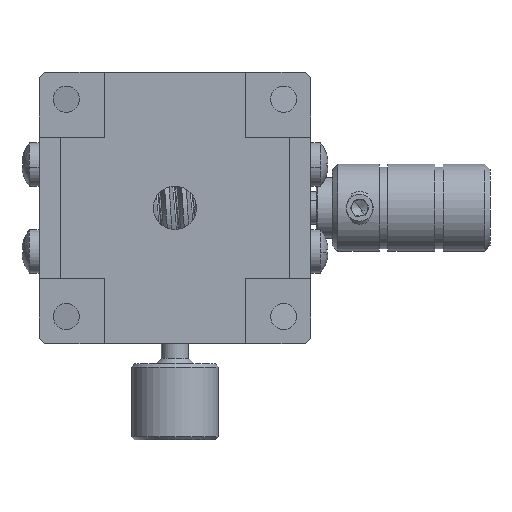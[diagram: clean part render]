
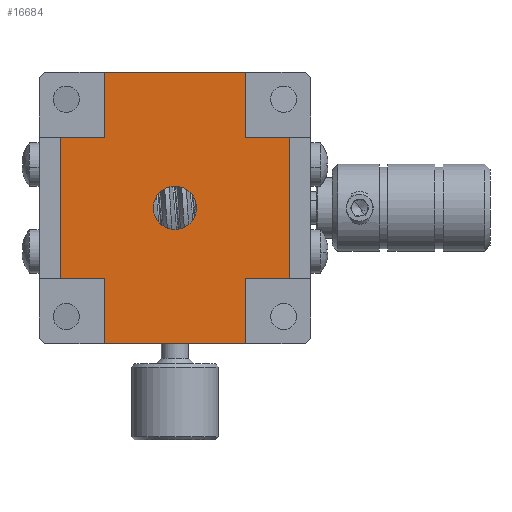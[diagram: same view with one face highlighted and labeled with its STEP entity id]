
A CAD part, front view. The second image highlights one B-rep face of the part: STEP entity #16684.
In plain terms, the highlighted planar face has unit normal (0, -1, 0).
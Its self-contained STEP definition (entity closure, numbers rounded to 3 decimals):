
#237 = CARTESIAN_POINT ( 'NONE',  ( 23.022, 45.174, 27.597 ) ) ;
#269 = DIRECTION ( 'NONE',  ( -1., 0., 0. ) ) ;
#465 = CARTESIAN_POINT ( 'NONE',  ( 16.522, 45.174, 46.597 ) ) ;
#1200 = DIRECTION ( 'NONE',  ( -1., 0., 0. ) ) ;
#1595 = ORIENTED_EDGE ( 'NONE', *, *, #8863, .F. ) ;
#1677 = EDGE_CURVE ( 'NONE', #16149, #6084, #13375, .T. ) ;
#1729 = DIRECTION ( 'NONE',  ( 0., -1., 0. ) ) ;
#1913 = VECTOR ( 'NONE', #15899, 1000. ) ;
#2025 = EDGE_CURVE ( 'NONE', #9055, #19318, #6569, .T. ) ;
#2146 = CARTESIAN_POINT ( 'NONE',  ( 23.022, 45.174, 34.097 ) ) ;
#2228 = LINE ( 'NONE', #4345, #11588 ) ;
#2606 = CARTESIAN_POINT ( 'NONE',  ( 12.522, 45.174, 40.597 ) ) ;
#2675 = PLANE ( 'NONE',  #17856 ) ;
#2685 = ORIENTED_EDGE ( 'NONE', *, *, #1677, .F. ) ;
#3487 = VERTEX_POINT ( 'NONE', #10340 ) ;
#4062 = ORIENTED_EDGE ( 'NONE', *, *, #10041, .F. ) ;
#4345 = CARTESIAN_POINT ( 'NONE',  ( 23.022, 45.174, 27.597 ) ) ;
#4483 = VERTEX_POINT ( 'NONE', #13204 ) ;
#4880 = ORIENTED_EDGE ( 'NONE', *, *, #22751, .T. ) ;
#5071 = VECTOR ( 'NONE', #9909, 1000. ) ;
#5421 = LINE ( 'NONE', #13994, #13305 ) ;
#5932 = CARTESIAN_POINT ( 'NONE',  ( 33.522, 45.174, 27.597 ) ) ;
#5976 = ORIENTED_EDGE ( 'NONE', *, *, #15414, .T. ) ;
#6084 = VERTEX_POINT ( 'NONE', #465 ) ;
#6121 = DIRECTION ( 'NONE',  ( 1., 0., 0. ) ) ;
#6447 = CARTESIAN_POINT ( 'NONE',  ( 29.522, 45.174, 46.597 ) ) ;
#6569 = LINE ( 'NONE', #17390, #23070 ) ;
#6775 = FACE_OUTER_BOUND ( 'NONE', #19287, .T. ) ;
#7318 = CARTESIAN_POINT ( 'NONE',  ( 29.522, 45.174, 34.097 ) ) ;
#7755 = VECTOR ( 'NONE', #20518, 1000. ) ;
#7941 = EDGE_LOOP ( 'NONE', ( #16915, #1595 ) ) ;
#8097 = VERTEX_POINT ( 'NONE', #5932 ) ;
#8194 = AXIS2_PLACEMENT_3D ( 'NONE', #24951, #1729, #10324 ) ;
#8302 = DIRECTION ( 'NONE',  ( -1., 0., 0. ) ) ;
#8561 = ORIENTED_EDGE ( 'NONE', *, *, #19459, .T. ) ;
#8709 = ORIENTED_EDGE ( 'NONE', *, *, #22474, .F. ) ;
#8863 = EDGE_CURVE ( 'NONE', #18919, #4483, #26587, .T. ) ;
#9055 = VERTEX_POINT ( 'NONE', #25650 ) ;
#9118 = CARTESIAN_POINT ( 'NONE',  ( 12.522, 45.174, 27.597 ) ) ;
#9170 = DIRECTION ( 'NONE',  ( 0., 0., 1. ) ) ;
#9888 = ORIENTED_EDGE ( 'NONE', *, *, #20279, .F. ) ;
#9909 = DIRECTION ( 'NONE',  ( 0., 0., 1. ) ) ;
#10039 = AXIS2_PLACEMENT_3D ( 'NONE', #2146, #12844, #6121 ) ;
#10041 = EDGE_CURVE ( 'NONE', #8097, #25836, #13028, .T. ) ;
#10324 = DIRECTION ( 'NONE',  ( 1., 0., 0. ) ) ;
#10340 = CARTESIAN_POINT ( 'NONE',  ( 16.522, 45.174, 21.597 ) ) ;
#10588 = DIRECTION ( 'NONE',  ( 0., 0., 1. ) ) ;
#11263 = CARTESIAN_POINT ( 'NONE',  ( 16.522, 45.174, 34.097 ) ) ;
#11588 = VECTOR ( 'NONE', #269, 1000. ) ;
#11668 = LINE ( 'NONE', #7318, #1913 ) ;
#11845 = VECTOR ( 'NONE', #18245, 1000. ) ;
#12305 = VECTOR ( 'NONE', #22514, 1000. ) ;
#12844 = DIRECTION ( 'NONE',  ( 0., -1., 0. ) ) ;
#13028 = LINE ( 'NONE', #237, #16160 ) ;
#13204 = CARTESIAN_POINT ( 'NONE',  ( 25.022, 45.174, 34.097 ) ) ;
#13305 = VECTOR ( 'NONE', #1200, 1000. ) ;
#13372 = CARTESIAN_POINT ( 'NONE',  ( 16.522, 45.174, 40.597 ) ) ;
#13375 = LINE ( 'NONE', #11263, #24412 ) ;
#13940 = CARTESIAN_POINT ( 'NONE',  ( 33.522, 45.174, 29.597 ) ) ;
#13994 = CARTESIAN_POINT ( 'NONE',  ( 67.522, 45.174, 46.597 ) ) ;
#14470 = CARTESIAN_POINT ( 'NONE',  ( 23.022, 45.174, 40.597 ) ) ;
#15414 = EDGE_CURVE ( 'NONE', #23010, #6084, #5421, .T. ) ;
#15523 = VERTEX_POINT ( 'NONE', #16825 ) ;
#15899 = DIRECTION ( 'NONE',  ( 0., 0., 1. ) ) ;
#16111 = EDGE_CURVE ( 'NONE', #3487, #15523, #17044, .T. ) ;
#16149 = VERTEX_POINT ( 'NONE', #13372 ) ;
#16160 = VECTOR ( 'NONE', #17263, 1000. ) ;
#16393 = CARTESIAN_POINT ( 'NONE',  ( 29.522, 45.174, 34.097 ) ) ;
#16519 = ORIENTED_EDGE ( 'NONE', *, *, #22937, .T. ) ;
#16684 = ADVANCED_FACE ( 'NONE', ( #25907, #6775 ), #2675, .T. ) ;
#16825 = CARTESIAN_POINT ( 'NONE',  ( 16.522, 45.174, 27.597 ) ) ;
#16915 = ORIENTED_EDGE ( 'NONE', *, *, #27275, .F. ) ;
#17044 = LINE ( 'NONE', #25763, #20527 ) ;
#17103 = EDGE_CURVE ( 'NONE', #15523, #20164, #2228, .T. ) ;
#17174 = VECTOR ( 'NONE', #8302, 1000. ) ;
#17263 = DIRECTION ( 'NONE',  ( -1., 0., 0. ) ) ;
#17327 = DIRECTION ( 'NONE',  ( 1., 0., 0. ) ) ;
#17390 = CARTESIAN_POINT ( 'NONE',  ( 23.022, 45.174, 40.597 ) ) ;
#17856 = AXIS2_PLACEMENT_3D ( 'NONE', #19698, #21405, #17327 ) ;
#17961 = CARTESIAN_POINT ( 'NONE',  ( 29.522, 45.174, 27.597 ) ) ;
#17990 = LINE ( 'NONE', #26569, #7755 ) ;
#17996 = ORIENTED_EDGE ( 'NONE', *, *, #16111, .F. ) ;
#18245 = DIRECTION ( 'NONE',  ( 0., 0., 1. ) ) ;
#18919 = VERTEX_POINT ( 'NONE', #20199 ) ;
#19124 = CARTESIAN_POINT ( 'NONE',  ( 29.522, 45.174, 21.597 ) ) ;
#19287 = EDGE_LOOP ( 'NONE', ( #5976, #2685, #16519, #9888, #19943, #17996, #4880, #8561, #4062, #8709, #20981, #24955 ) ) ;
#19318 = VERTEX_POINT ( 'NONE', #23833 ) ;
#19459 = EDGE_CURVE ( 'NONE', #21043, #25836, #24954, .T. ) ;
#19698 = CARTESIAN_POINT ( 'NONE',  ( 23.022, 45.174, 34.097 ) ) ;
#19943 = ORIENTED_EDGE ( 'NONE', *, *, #17103, .F. ) ;
#20164 = VERTEX_POINT ( 'NONE', #9118 ) ;
#20199 = CARTESIAN_POINT ( 'NONE',  ( 21.022, 45.174, 34.097 ) ) ;
#20279 = EDGE_CURVE ( 'NONE', #20164, #21416, #24286, .T. ) ;
#20518 = DIRECTION ( 'NONE',  ( 1., 0., 0. ) ) ;
#20527 = VECTOR ( 'NONE', #10588, 1000. ) ;
#20981 = ORIENTED_EDGE ( 'NONE', *, *, #2025, .T. ) ;
#21043 = VERTEX_POINT ( 'NONE', #19124 ) ;
#21405 = DIRECTION ( 'NONE',  ( 0., -1., 0. ) ) ;
#21416 = VERTEX_POINT ( 'NONE', #2606 ) ;
#22137 = CIRCLE ( 'NONE', #10039, 2. ) ;
#22474 = EDGE_CURVE ( 'NONE', #9055, #8097, #26875, .T. ) ;
#22514 = DIRECTION ( 'NONE',  ( 0., 0., -1. ) ) ;
#22751 = EDGE_CURVE ( 'NONE', #3487, #21043, #17990, .T. ) ;
#22754 = EDGE_CURVE ( 'NONE', #19318, #23010, #11668, .T. ) ;
#22937 = EDGE_CURVE ( 'NONE', #16149, #21416, #27556, .T. ) ;
#23010 = VERTEX_POINT ( 'NONE', #6447 ) ;
#23070 = VECTOR ( 'NONE', #25968, 1000. ) ;
#23833 = CARTESIAN_POINT ( 'NONE',  ( 29.522, 45.174, 40.597 ) ) ;
#24286 = LINE ( 'NONE', #26951, #11845 ) ;
#24412 = VECTOR ( 'NONE', #9170, 1000. ) ;
#24951 = CARTESIAN_POINT ( 'NONE',  ( 23.022, 45.174, 34.097 ) ) ;
#24954 = LINE ( 'NONE', #16393, #5071 ) ;
#24955 = ORIENTED_EDGE ( 'NONE', *, *, #22754, .T. ) ;
#25650 = CARTESIAN_POINT ( 'NONE',  ( 33.522, 45.174, 40.597 ) ) ;
#25763 = CARTESIAN_POINT ( 'NONE',  ( 16.522, 45.174, 34.097 ) ) ;
#25836 = VERTEX_POINT ( 'NONE', #17961 ) ;
#25907 = FACE_BOUND ( 'NONE', #7941, .T. ) ;
#25968 = DIRECTION ( 'NONE',  ( -1., 0., 0. ) ) ;
#26569 = CARTESIAN_POINT ( 'NONE',  ( 75.022, 45.174, 21.597 ) ) ;
#26587 = CIRCLE ( 'NONE', #8194, 2. ) ;
#26875 = LINE ( 'NONE', #13940, #12305 ) ;
#26951 = CARTESIAN_POINT ( 'NONE',  ( 12.522, 45.174, 34.097 ) ) ;
#27275 = EDGE_CURVE ( 'NONE', #4483, #18919, #22137, .T. ) ;
#27556 = LINE ( 'NONE', #14470, #17174 ) ;
